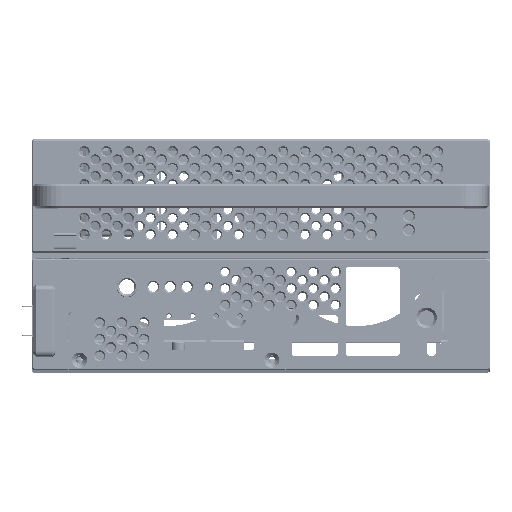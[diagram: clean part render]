
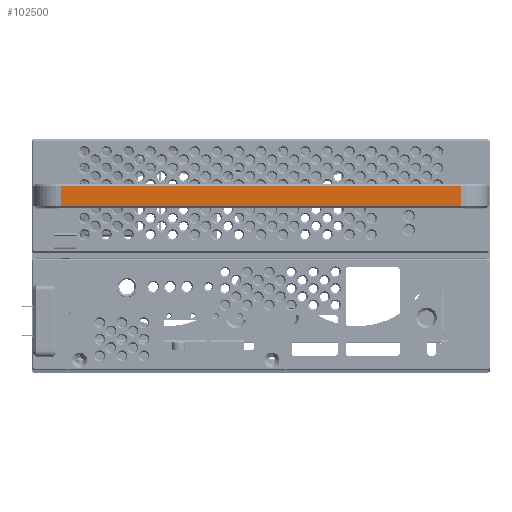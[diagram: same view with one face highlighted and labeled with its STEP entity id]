
A CAD part, top view. The second image highlights one B-rep face of the part: STEP entity #102500.
In plain terms, the highlighted planar face has unit normal (0, 0, 1).
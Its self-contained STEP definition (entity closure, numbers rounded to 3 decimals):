
#101674=DIRECTION('',(1.,0.,0.));
#101675=VECTOR('',#101674,145.);
#101676=CARTESIAN_POINT('',(-72.5,3.5,
30.));
#101677=LINE('',#101676,#101675);
#101681=DIRECTION('',(0.,-1.,0.));
#101682=VECTOR('',#101681,7.);
#101683=CARTESIAN_POINT('',(72.5,3.5,
30.));
#101684=LINE('',#101683,#101682);
#101688=DIRECTION('',(-1.,0.,0.));
#101689=VECTOR('',#101688,145.);
#101690=CARTESIAN_POINT('',(72.5,-3.5,
30.));
#101691=LINE('',#101690,#101689);
#101695=DIRECTION('',(0.,-1.,0.));
#101696=VECTOR('',#101695,7.);
#101697=CARTESIAN_POINT('',(-72.5,3.5,
30.));
#101698=LINE('',#101697,#101696);
#101909=CARTESIAN_POINT('',(72.5,3.5,30.));
#101910=VERTEX_POINT('',#101909);
#101913=CARTESIAN_POINT('',(-72.5,3.5,
30.));
#101914=VERTEX_POINT('',#101913);
#101981=CARTESIAN_POINT('',(-72.5,-3.5,30.));
#101982=VERTEX_POINT('',#101981);
#101985=CARTESIAN_POINT('',(72.5,-3.5,
30.));
#101986=VERTEX_POINT('',#101985);
#102487=CARTESIAN_POINT('',(-82.5,-4.5,30.));
#102488=DIRECTION('',(0.,0.,1.));
#102489=DIRECTION('',(1.,0.,0.));
#102490=AXIS2_PLACEMENT_3D('',#102487,#102488,#102489);
#102491=PLANE('',#102490);
#102493=ORIENTED_EDGE('',*,*,#102492,.T.);
#102494=ORIENTED_EDGE('',*,*,#102482,.T.);
#102495=ORIENTED_EDGE('',*,*,#102299,.T.);
#102497=ORIENTED_EDGE('',*,*,#102496,.F.);
#102498=EDGE_LOOP('',(#102493,#102494,#102495,#102497));
#102499=FACE_OUTER_BOUND('',#102498,.F.);
#102500=ADVANCED_FACE('',(#102499),#102491,.T.);
#102299=EDGE_CURVE('',#101986,#101982,#101691,.T.);
#102482=EDGE_CURVE('',#101910,#101986,#101684,.T.);
#102492=EDGE_CURVE('',#101914,#101910,#101677,.T.);
#102496=EDGE_CURVE('',#101914,#101982,#101698,.T.);
